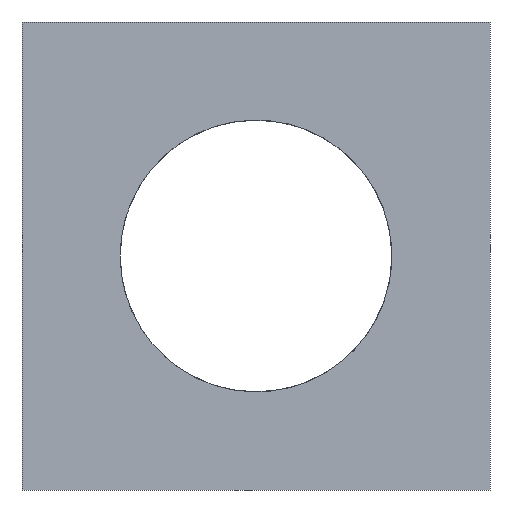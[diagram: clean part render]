
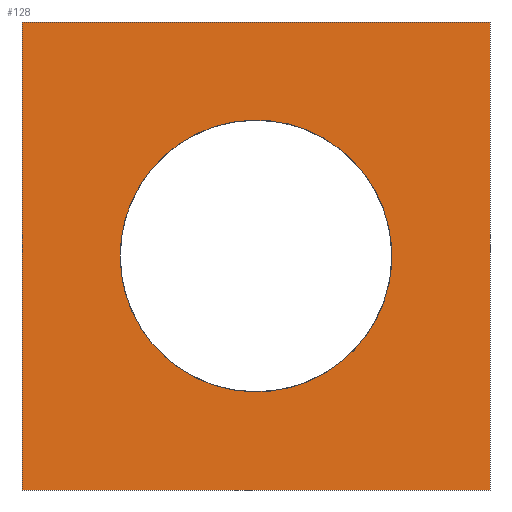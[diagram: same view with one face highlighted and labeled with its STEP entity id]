
A CAD part, front view. The second image highlights one B-rep face of the part: STEP entity #128.
In plain terms, the highlighted planar face has unit normal (0.138, -0.991, 0).
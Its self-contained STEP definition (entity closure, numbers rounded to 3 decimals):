
#18=FACE_BOUND('',#29,.T.);
#20=ELLIPSE('',#156,9.087,9.);
#21=FACE_OUTER_BOUND('',#28,.T.);
#28=EDGE_LOOP('',(#90,#91,#92,#93));
#29=EDGE_LOOP('',(#94));
#37=LINE('',#204,#50);
#38=LINE('',#206,#51);
#39=LINE('',#208,#52);
#40=LINE('',#209,#53);
#50=VECTOR('',#169,10.);
#51=VECTOR('',#170,10.);
#52=VECTOR('',#171,10.);
#53=VECTOR('',#172,10.);
#63=VERTEX_POINT('',#202);
#64=VERTEX_POINT('',#203);
#65=VERTEX_POINT('',#205);
#66=VERTEX_POINT('',#207);
#67=VERTEX_POINT('',#210);
#74=EDGE_CURVE('',#63,#64,#37,.T.);
#75=EDGE_CURVE('',#65,#63,#38,.T.);
#76=EDGE_CURVE('',#66,#65,#39,.T.);
#77=EDGE_CURVE('',#66,#64,#40,.T.);
#78=EDGE_CURVE('',#67,#67,#20,.T.);
#90=ORIENTED_EDGE('',*,*,#74,.F.);
#91=ORIENTED_EDGE('',*,*,#75,.F.);
#92=ORIENTED_EDGE('',*,*,#76,.F.);
#93=ORIENTED_EDGE('',*,*,#77,.T.);
#94=ORIENTED_EDGE('',*,*,#78,.F.);
#122=PLANE('',#155);
#128=ADVANCED_FACE('',(#21,#18),#122,.F.);
#155=AXIS2_PLACEMENT_3D('',#201,#167,#168);
#156=AXIS2_PLACEMENT_3D('',#211,#173,#174);
#167=DIRECTION('center_axis',(-0.138,0.99,0.));
#168=DIRECTION('ref_axis',(0.99,0.138,0.));
#169=DIRECTION('',(-0.99,-0.138,0.));
#170=DIRECTION('',(0.,0.,-1.));
#171=DIRECTION('',(0.99,0.138,0.));
#172=DIRECTION('',(0.,0.,-1.));
#173=DIRECTION('center_axis',(0.138,-0.99,0.));
#174=DIRECTION('ref_axis',(0.99,0.138,0.));
#201=CARTESIAN_POINT('Origin',(-15.5,-7.,15.5));
#202=CARTESIAN_POINT('',(15.5,-2.686,-15.5));
#203=CARTESIAN_POINT('',(-15.5,-7.,-15.5));
#204=CARTESIAN_POINT('',(-15.022,-6.933,-15.5));
#205=CARTESIAN_POINT('',(15.5,-2.686,15.5));
#206=CARTESIAN_POINT('',(15.5,-2.686,0.));
#207=CARTESIAN_POINT('',(-15.5,-7.,15.5));
#208=CARTESIAN_POINT('',(0.183,-4.817,15.5));
#209=CARTESIAN_POINT('',(-15.5,-7.,-15.5));
#210=CARTESIAN_POINT('',(-9.,-6.095,0.));
#211=CARTESIAN_POINT('Origin',(0.,-4.843,0.));
